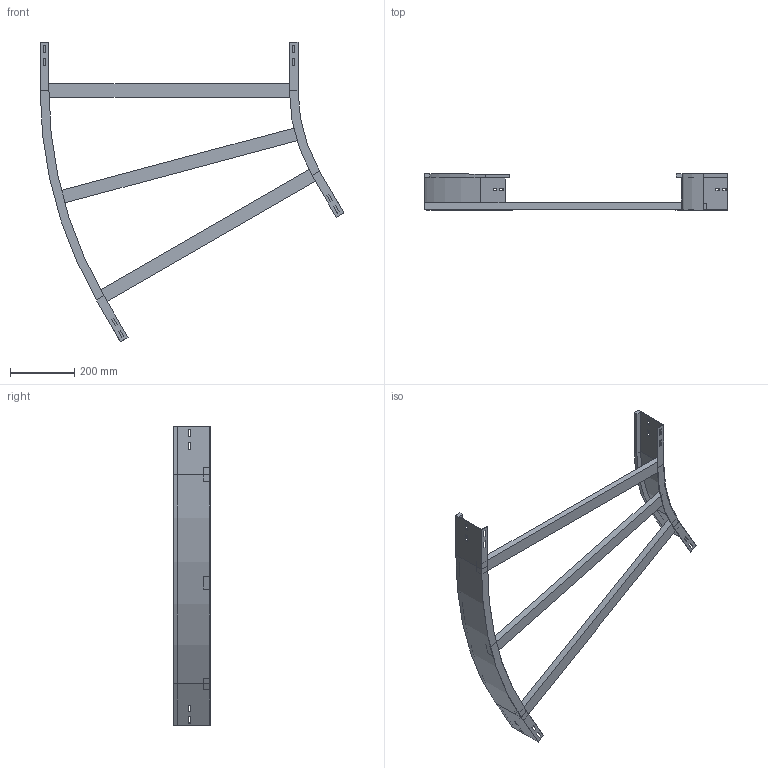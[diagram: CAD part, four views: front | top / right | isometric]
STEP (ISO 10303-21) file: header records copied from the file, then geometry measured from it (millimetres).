
FILE_DESCRIPTION (( 'STEP AP214' ), '1' );
FILE_NAME ('12B5J800.step', '2025-02-21T15:08:37', ( '' ), ( '' ), 'SwSTEP 2.0', 'SolidWorks 2023', '' );
FILE_SCHEMA (( 'AUTOMOTIVE_DESIGN' ));
Length unit declared in the file: millimetre
Products named in the file (4): TRAVERSINO_800; 12B5J800; A2_LONGH.INTERNO 30°_H112.5_R500; A2_LONGH.ESTERNO 30°_H112.5_R500+800
Assembly tree (5 placements, depth 2):
  12B5J800
    A2_LONGH.INTERNO 30°_H112.5_R500
    A2_LONGH.ESTERNO 30°_H112.5_R500+800
    TRAVERSINO_800  x3
Bounding box: 941.99 x 112.5 x 929.9 mm (x, y, z)
Volume: 2649689.1 mm3; surface area: 772314.6 mm2
Topology: 5 solids, 5 shells, 134 faces, 340 edges, 216 vertices
Faces by surface type: plane 126, cylinder 8
Entity records: 3821 total; most frequent: CARTESIAN_POINT 646, ORIENTED_EDGE 632, DIRECTION 592, EDGE_CURVE 316, LINE 300, VECTOR 300, VERTEX_POINT 200, EDGE_LOOP 154
